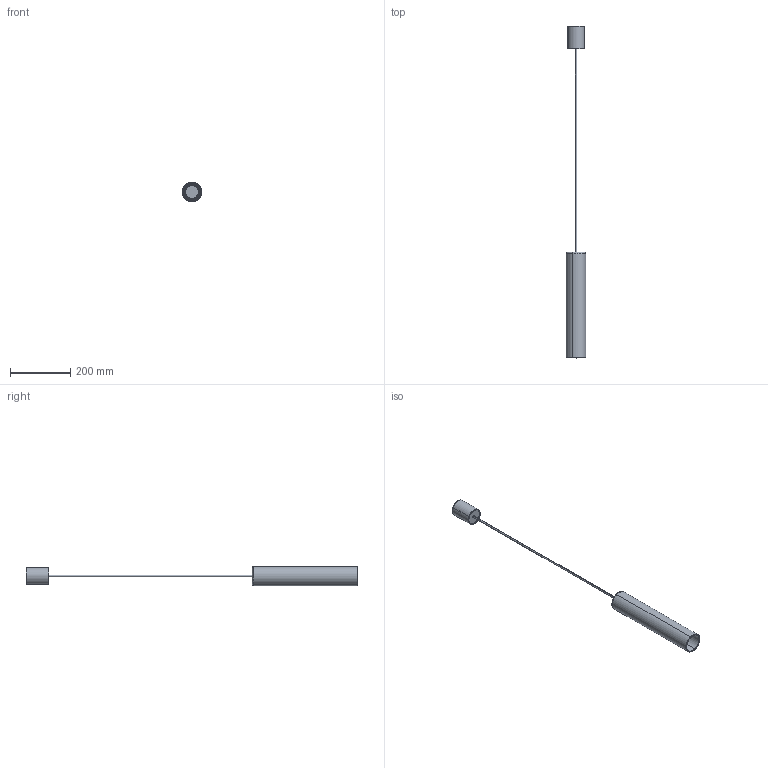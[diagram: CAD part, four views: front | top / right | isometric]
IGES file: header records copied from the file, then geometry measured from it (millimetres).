
Start section: SolidWorks IGES file using analytic representation for surfaces
Global section: file name: Z:\Modele 3D_WWW\_KOLEKCJE_WWW\CYLINDER\CYLINDER-L-7864-7867\CYLINDER-L-7864-7867.IGS; native system: SolidWorks 2021; preprocessor: SolidWorks 2021; author: gabriela.tworek; date: 210719.115356; units: millimetre
Bounding box: 65 x 1099 x 65 mm (x, y, z)
Surface area: 230846.3 mm2 (no closed solid volume)
Topology: 0 solids, 0 shells, 90 faces, 2293 edges, 2293 vertices
Faces by surface type: bspline 56, revolution 34
